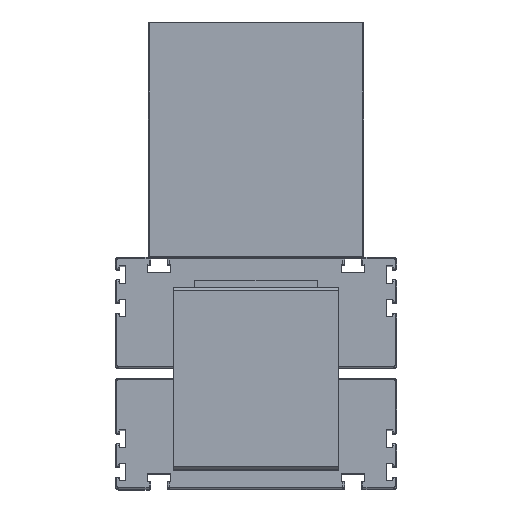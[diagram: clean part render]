
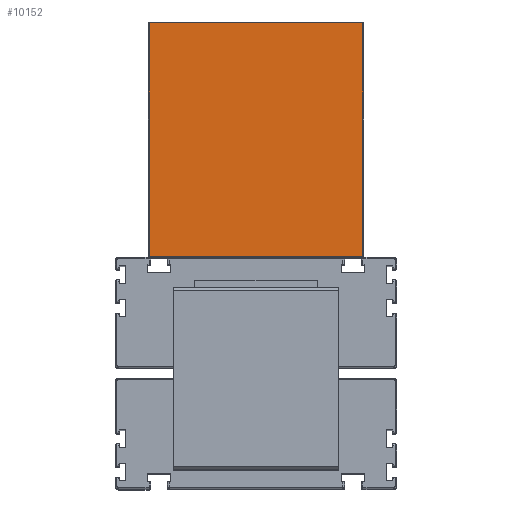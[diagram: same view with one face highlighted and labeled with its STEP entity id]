
A CAD part, top view. The second image highlights one B-rep face of the part: STEP entity #10152.
In plain terms, the highlighted planar face has unit normal (0, 0, 1).
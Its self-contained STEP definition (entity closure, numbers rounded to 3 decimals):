
#241 = CARTESIAN_POINT ( 'NONE',  ( -64.5, 0.5, 135. ) ) ;
#297 = DIRECTION ( 'NONE',  ( 0., 0., -1. ) ) ;
#302 = EDGE_CURVE ( 'NONE', #11435, #12935, #19062, .T. ) ;
#333 = LINE ( 'NONE', #21730, #1365 ) ;
#390 = AXIS2_PLACEMENT_3D ( 'NONE', #5260, #297, #14620 ) ;
#596 = EDGE_LOOP ( 'NONE', ( #4828, #13119, #22855, #9357 ) ) ;
#1365 = VECTOR ( 'NONE', #16677, 1000. ) ;
#3329 = DIRECTION ( 'NONE',  ( 0., -1., 0. ) ) ;
#4261 = CARTESIAN_POINT ( 'NONE',  ( 65., 141.5, 135. ) ) ;
#4828 = ORIENTED_EDGE ( 'NONE', *, *, #18991, .T. ) ;
#5260 = CARTESIAN_POINT ( 'NONE',  ( 65., 0., 135. ) ) ;
#7916 = DIRECTION ( 'NONE',  ( -1., 0., 0. ) ) ;
#8421 = VERTEX_POINT ( 'NONE', #21148 ) ;
#8775 = PLANE ( 'NONE',  #390 ) ;
#9357 = ORIENTED_EDGE ( 'NONE', *, *, #13568, .T. ) ;
#10152 = ADVANCED_FACE ( 'NONE', ( #19938 ), #8775, .F. ) ;
#11156 = DIRECTION ( 'NONE',  ( 1., 0., 0. ) ) ;
#11435 = VERTEX_POINT ( 'NONE', #23237 ) ;
#12529 = VECTOR ( 'NONE', #3329, 1000. ) ;
#12702 = LINE ( 'NONE', #14373, #13195 ) ;
#12935 = VERTEX_POINT ( 'NONE', #241 ) ;
#13119 = ORIENTED_EDGE ( 'NONE', *, *, #15481, .T. ) ;
#13195 = VECTOR ( 'NONE', #11156, 1000. ) ;
#13523 = CARTESIAN_POINT ( 'NONE',  ( 64.5, 141.5, 135. ) ) ;
#13568 = EDGE_CURVE ( 'NONE', #12935, #8421, #12702, .T. ) ;
#14373 = CARTESIAN_POINT ( 'NONE',  ( 65., 0.5, 135. ) ) ;
#14620 = DIRECTION ( 'NONE',  ( 0., 1., 0. ) ) ;
#14692 = LINE ( 'NONE', #4261, #21486 ) ;
#15481 = EDGE_CURVE ( 'NONE', #16899, #11435, #14692, .T. ) ;
#16677 = DIRECTION ( 'NONE',  ( 0., 1., 0. ) ) ;
#16899 = VERTEX_POINT ( 'NONE', #13523 ) ;
#18991 = EDGE_CURVE ( 'NONE', #8421, #16899, #333, .T. ) ;
#19062 = LINE ( 'NONE', #22724, #12529 ) ;
#19938 = FACE_OUTER_BOUND ( 'NONE', #596, .T. ) ;
#21148 = CARTESIAN_POINT ( 'NONE',  ( 64.5, 0.5, 135. ) ) ;
#21486 = VECTOR ( 'NONE', #7916, 1000. ) ;
#21730 = CARTESIAN_POINT ( 'NONE',  ( 64.5, 142., 135. ) ) ;
#22724 = CARTESIAN_POINT ( 'NONE',  ( -64.5, 0., 135. ) ) ;
#22855 = ORIENTED_EDGE ( 'NONE', *, *, #302, .T. ) ;
#23237 = CARTESIAN_POINT ( 'NONE',  ( -64.5, 141.5, 135. ) ) ;
